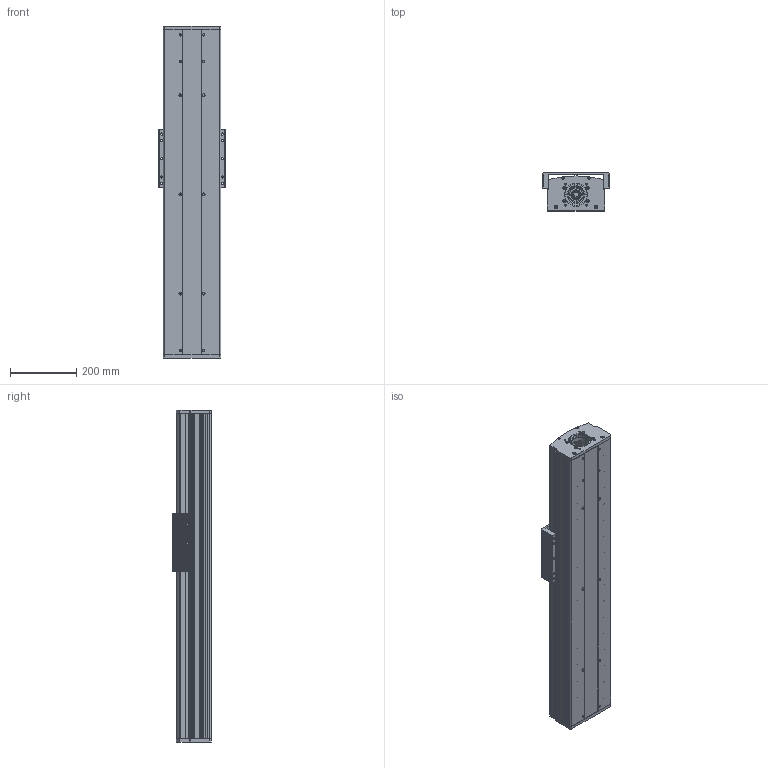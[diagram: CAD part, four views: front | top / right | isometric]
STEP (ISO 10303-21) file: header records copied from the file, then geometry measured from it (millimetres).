
FILE_DESCRIPTION (( 'STEP AP203' ), '1' );
FILE_NAME ('CF175-2-P650.STEP', '2016-02-23T08:22:21', ( 'Sky123.Org' ), ( 'Sky123.Org' ), 'SwSTEP 2.0', 'SolidWorks 2015', '' );
FILE_SCHEMA (( 'CONFIG_CONTROL_DESIGN' ));
Length unit declared in the file: millimetre
Products named in the file (13): CF175-2賑雄啣; SFU2505-4; 175-2梓袧嘐隅釱; X1-SFS2525-1185; 175-2侜督80萇儂釱; 175-2耜啣; CF175-2-P650; 175-2盓傅釱; CF175-2蹟譫釱; Y1-CF175-2-P1200-1547裔啣; Y1-CF175-2-P1200-1547臏倰第; Y1-HGR20-1500絳寢; CF-HGH20CA賑輸
Assembly tree (16 placements, depth 2):
  CF175-2-P650
    CF-HGH20CA賑輸  x4
    SFU2505-4
    X1-SFS2525-1185
    175-2耜啣
    175-2盓傅釱
    CF175-2蹟譫釱
    Y1-CF175-2-P1200-1547裔啣
    Y1-CF175-2-P1200-1547臏倰第
    Y1-HGR20-1500絳寢  x2
    CF175-2賑雄啣
    175-2梓袧嘐隅釱
    175-2侜督80萇儂釱
Bounding box: 200 x 116.8 x 1005 mm (x, y, z)
Volume: 8296698.3 mm3; surface area: 2255234 mm2
Topology: 22 solids, 22 shells, 1438 faces, 3798 edges, 2516 vertices
Faces by surface type: cylinder 757, plane 657, cone 20, bspline 4
Entity records: 42626 total; most frequent: CARTESIAN_POINT 11296, DIRECTION 6488, ORIENTED_EDGE 6042, EDGE_CURVE 3021, AXIS2_PLACEMENT_3D 2433, VERTEX_POINT 2000, VECTOR 1622, LINE 1622
